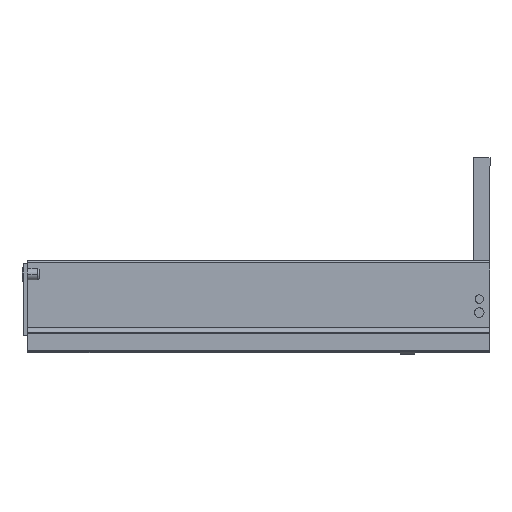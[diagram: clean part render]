
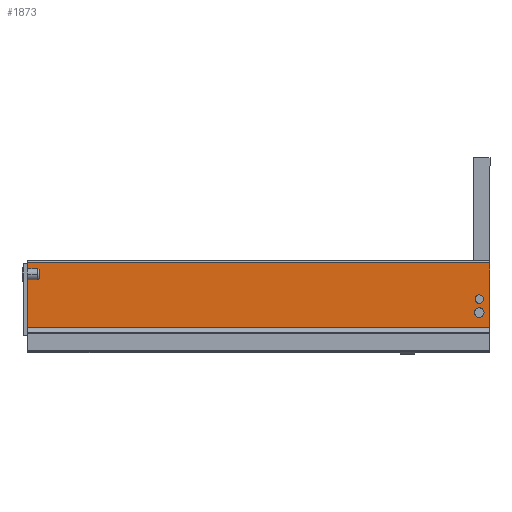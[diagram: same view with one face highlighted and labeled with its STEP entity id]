
A CAD part, left-side view. The second image highlights one B-rep face of the part: STEP entity #1873.
In plain terms, the highlighted planar face has unit normal (-1, 0, 0).
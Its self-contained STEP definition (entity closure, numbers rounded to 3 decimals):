
#135 = VERTEX_POINT ( 'NONE', #293 ) ;
#136 = VERTEX_POINT ( 'NONE', #294 ) ;
#138 = VERTEX_POINT ( 'NONE', #290 ) ;
#141 = VERTEX_POINT ( 'NONE', #398 ) ;
#171 = VERTEX_POINT ( 'NONE', #421 ) ;
#184 = VERTEX_POINT ( 'NONE', #313 ) ;
#216 = VERTEX_POINT ( 'NONE', #366 ) ;
#286 = VERTEX_POINT ( 'NONE', #336 ) ;
#290 = CARTESIAN_POINT ( 'NONE',  ( -21.5, 10.4, 28.9 ) ) ;
#293 = CARTESIAN_POINT ( 'NONE',  ( -21.5, 10.4, 24.6 ) ) ;
#294 = CARTESIAN_POINT ( 'NONE',  ( -21.5, 10.4, 15.4 ) ) ;
#313 = CARTESIAN_POINT ( 'NONE',  ( -21.5, 447., 68. ) ) ;
#336 = CARTESIAN_POINT ( 'NONE',  ( -21.5, 0., 68. ) ) ;
#366 = CARTESIAN_POINT ( 'NONE',  ( -21.5, 0., 5.395 ) ) ;
#398 = CARTESIAN_POINT ( 'NONE',  ( -21.5, 10.4, 37.1 ) ) ;
#421 = CARTESIAN_POINT ( 'NONE',  ( -21.5, 447., 5.395 ) ) ;
#466 = CARTESIAN_POINT ( 'NONE',  ( -21.5, 447., 68. ) ) ;
#468 = DIRECTION ( 'NONE',  ( 0., -1., 0. ) ) ;
#470 = CARTESIAN_POINT ( 'NONE',  ( -21.5, 10.4, 33. ) ) ;
#473 = DIRECTION ( 'NONE',  ( 0., 0., -1. ) ) ;
#474 = DIRECTION ( 'NONE',  ( 1., 0., 0. ) ) ;
#499 = EDGE_CURVE ( 'NONE', #184, #286, #2404, .T. ) ;
#501 = EDGE_CURVE ( 'NONE', #138, #141, #2399, .T. ) ;
#756 = AXIS2_PLACEMENT_3D ( 'NONE', #1295, #1293, #1289 ) ;
#784 = AXIS2_PLACEMENT_3D ( 'NONE', #1798, #1797, #1796 ) ;
#796 = EDGE_CURVE ( 'NONE', #141, #138, #2052, .T. ) ;
#801 = AXIS2_PLACEMENT_3D ( 'NONE', #470, #474, #473 ) ;
#888 = EDGE_CURVE ( 'NONE', #286, #216, #3024, .T. ) ;
#889 = EDGE_CURVE ( 'NONE', #184, #171, #3022, .T. ) ;
#893 = EDGE_CURVE ( 'NONE', #135, #136, #1929, .T. ) ;
#894 = AXIS2_PLACEMENT_3D ( 'NONE', #1458, #1451, #1452 ) ;
#930 = EDGE_CURVE ( 'NONE', #136, #135, #2327, .T. ) ;
#949 = EDGE_CURVE ( 'NONE', #171, #216, #2306, .T. ) ;
#982 = AXIS2_PLACEMENT_3D ( 'NONE', #1341, #1337, #1338 ) ;
#1165 = CARTESIAN_POINT ( 'NONE',  ( -21.5, 447., 5.395 ) ) ;
#1174 = CARTESIAN_POINT ( 'NONE',  ( -21.5, 0., 68. ) ) ;
#1175 = DIRECTION ( 'NONE',  ( 0., 0., -1. ) ) ;
#1289 = DIRECTION ( 'NONE',  ( 0., 0., -1. ) ) ;
#1293 = DIRECTION ( 'NONE',  ( 1., 0., 0. ) ) ;
#1295 = CARTESIAN_POINT ( 'NONE',  ( -21.5, 10.4, 33. ) ) ;
#1337 = DIRECTION ( 'NONE',  ( 1., 0., 0. ) ) ;
#1338 = DIRECTION ( 'NONE',  ( 0., 0., -1. ) ) ;
#1341 = CARTESIAN_POINT ( 'NONE',  ( -21.5, 10.4, 20. ) ) ;
#1442 = CARTESIAN_POINT ( 'NONE',  ( -21.5, 447., 5.395 ) ) ;
#1443 = DIRECTION ( 'NONE',  ( 0., -1., 0. ) ) ;
#1451 = DIRECTION ( 'NONE',  ( 1., 0., 0. ) ) ;
#1452 = DIRECTION ( 'NONE',  ( 0., 0., -1. ) ) ;
#1456 = DIRECTION ( 'NONE',  ( 0., 0., -1. ) ) ;
#1458 = CARTESIAN_POINT ( 'NONE',  ( -21.5, 10.4, 20. ) ) ;
#1796 = DIRECTION ( 'NONE',  ( 0., 0., -1. ) ) ;
#1797 = DIRECTION ( 'NONE',  ( -1., 0., 0. ) ) ;
#1798 = CARTESIAN_POINT ( 'NONE',  ( -21.5, 447., 68. ) ) ;
#1814 = PLANE ( 'NONE',  #784 ) ;
#1873 = ADVANCED_FACE ( 'NONE', ( #2166, #2165, #2161 ), #1814, .T. ) ;
#1929 = CIRCLE ( 'NONE', #982, 4.6 ) ;
#2052 = CIRCLE ( 'NONE', #756, 4.1 ) ;
#2161 = FACE_BOUND ( 'NONE', #2983, .T. ) ;
#2165 = FACE_BOUND ( 'NONE', #2982, .T. ) ;
#2166 = FACE_OUTER_BOUND ( 'NONE', #2980, .T. ) ;
#2305 = VECTOR ( 'NONE', #1443, 1000. ) ;
#2306 = LINE ( 'NONE', #1442, #2305 ) ;
#2327 = CIRCLE ( 'NONE', #894, 4.6 ) ;
#2399 = CIRCLE ( 'NONE', #801, 4.1 ) ;
#2403 = VECTOR ( 'NONE', #468, 1000. ) ;
#2404 = LINE ( 'NONE', #466, #2403 ) ;
#2676 = ORIENTED_EDGE ( 'NONE', *, *, #499, .F. ) ;
#2677 = ORIENTED_EDGE ( 'NONE', *, *, #889, .T. ) ;
#2678 = ORIENTED_EDGE ( 'NONE', *, *, #949, .T. ) ;
#2679 = ORIENTED_EDGE ( 'NONE', *, *, #888, .F. ) ;
#2680 = ORIENTED_EDGE ( 'NONE', *, *, #501, .T. ) ;
#2681 = ORIENTED_EDGE ( 'NONE', *, *, #796, .T. ) ;
#2682 = ORIENTED_EDGE ( 'NONE', *, *, #930, .T. ) ;
#2683 = ORIENTED_EDGE ( 'NONE', *, *, #893, .T. ) ;
#2980 = EDGE_LOOP ( 'NONE', ( #2676, #2677, #2678, #2679 ) ) ;
#2982 = EDGE_LOOP ( 'NONE', ( #2680, #2681 ) ) ;
#2983 = EDGE_LOOP ( 'NONE', ( #2682, #2683 ) ) ;
#3021 = VECTOR ( 'NONE', #1456, 1000. ) ;
#3022 = LINE ( 'NONE', #1165, #3021 ) ;
#3023 = VECTOR ( 'NONE', #1175, 1000. ) ;
#3024 = LINE ( 'NONE', #1174, #3023 ) ;
